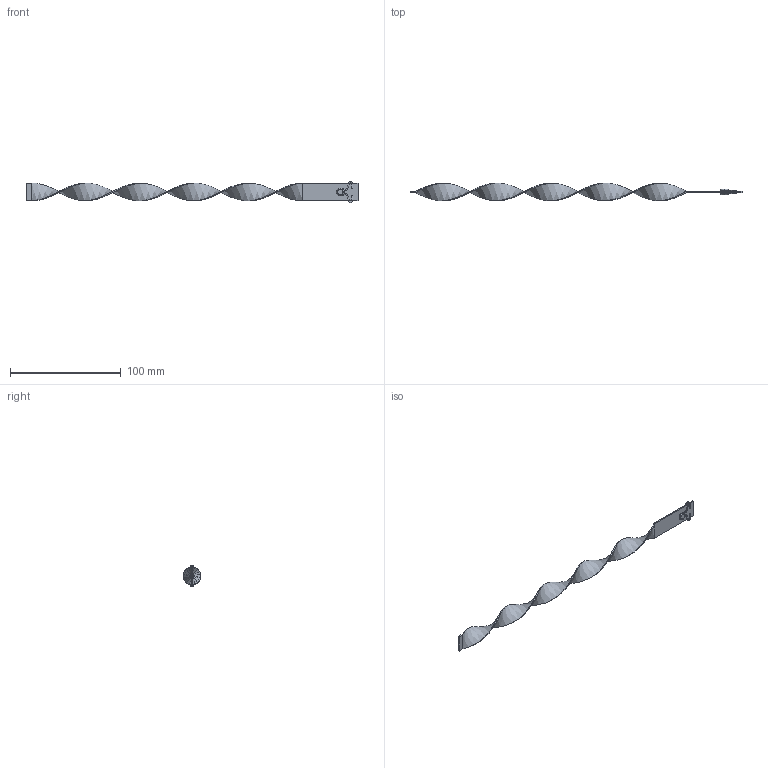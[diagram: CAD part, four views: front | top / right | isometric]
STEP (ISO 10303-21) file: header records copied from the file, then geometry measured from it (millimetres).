
FILE_DESCRIPTION (( 'STEP AP203' ), '1' );
FILE_NAME ('RLAS-16x300.STEP', '2016-02-12T07:10:42', ( 'Balzi' ), ( '' ), 'SwSTEP 2.0', 'SolidWorks 2015', '' );
FILE_SCHEMA (( 'CONFIG_CONTROL_DESIGN' ));
Length unit declared in the file: millimetre
Products named in the file (1): RLAS-16x300
Bounding box: 300 x 15.82 x 18.99 mm (x, y, z)
Volume: 4875.5 mm3; surface area: 10913.2 mm2
Topology: 5 solids, 5 shells, 92 faces, 178 edges, 96 vertices
Faces by surface type: torus 40, cylinder 30, plane 18, bspline 4
Entity records: 4411 total; most frequent: CARTESIAN_POINT 2423, DIRECTION 468, ORIENTED_EDGE 356, AXIS2_PLACEMENT_3D 209, EDGE_CURVE 178, CIRCLE 120, VERTEX_POINT 96, EDGE_LOOP 94
